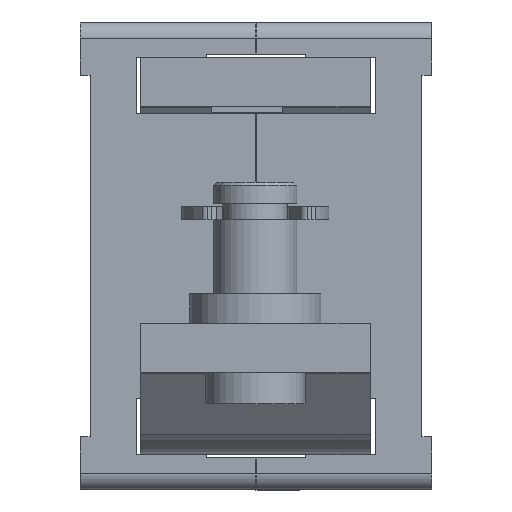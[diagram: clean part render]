
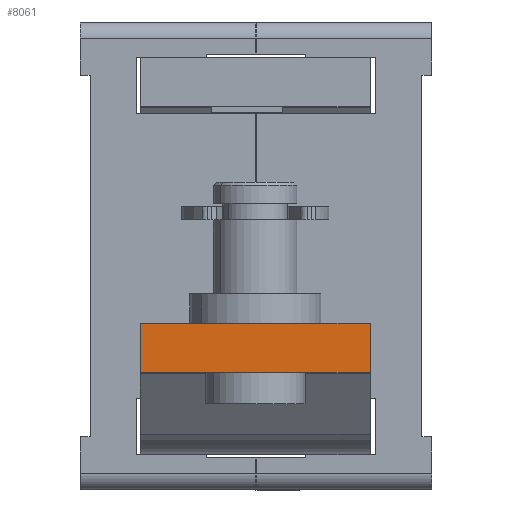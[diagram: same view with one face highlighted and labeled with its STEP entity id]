
A CAD part, front view. The second image highlights one B-rep face of the part: STEP entity #8061.
In plain terms, the highlighted planar face has unit normal (0, -1, 0) as drawn and (0, 1, 0) by its records, which use the part's own axes.
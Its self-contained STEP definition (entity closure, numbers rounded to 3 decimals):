
#3015 = DIRECTION ( 'NONE',  ( -1., 0., 0. ) ) ;
#3016 = VECTOR ( 'NONE', #3015, 1000. ) ;
#3017 = CARTESIAN_POINT ( 'NONE',  ( 7., 9.781, -5. ) ) ;
#3018 = LINE ( 'NONE', #3017, #3016 ) ;
#3111 = DIRECTION ( 'NONE',  ( -1., 0., 0. ) ) ;
#3112 = VECTOR ( 'NONE', #3111, 1000. ) ;
#3113 = CARTESIAN_POINT ( 'NONE',  ( 7., 9.781, -2. ) ) ;
#3119 = LINE ( 'NONE', #3113, #3112 ) ;
#3128 = CARTESIAN_POINT ( 'NONE',  ( -7., 9.781, -2. ) ) ;
#3186 = CARTESIAN_POINT ( 'NONE',  ( 7., 9.781, -5. ) ) ;
#3221 = DIRECTION ( 'NONE',  ( 0., 0., -1. ) ) ;
#3222 = VECTOR ( 'NONE', #3221, 1000. ) ;
#3223 = CARTESIAN_POINT ( 'NONE',  ( -7., 9.781, -2. ) ) ;
#3224 = LINE ( 'NONE', #3223, #3222 ) ;
#3226 = CARTESIAN_POINT ( 'NONE',  ( 7., 9.781, -2. ) ) ;
#3227 = AXIS2_PLACEMENT_3D ( 'NONE', #3226, #3253, #3252 ) ;
#3228 = PLANE ( 'NONE',  #3227 ) ;
#3229 = FACE_OUTER_BOUND ( 'NONE', #8039, .T. ) ;
#3230 = CARTESIAN_POINT ( 'NONE',  ( -7., 9.781, -5. ) ) ;
#3236 = DIRECTION ( 'NONE',  ( 0., 0., -1. ) ) ;
#3237 = VECTOR ( 'NONE', #3236, 1000. ) ;
#3238 = CARTESIAN_POINT ( 'NONE',  ( 7., 9.781, -2. ) ) ;
#3239 = LINE ( 'NONE', #3238, #3237 ) ;
#3240 = CARTESIAN_POINT ( 'NONE',  ( 7., 9.781, -2. ) ) ;
#3252 = DIRECTION ( 'NONE',  ( 0., 0., -1. ) ) ;
#3253 = DIRECTION ( 'NONE',  ( 0., -1., 0. ) ) ;
#8021 = ORIENTED_EDGE ( 'NONE', *, *, #8040, .T. ) ;
#8039 = EDGE_LOOP ( 'NONE', ( #8021, #8071, #8097, #8101 ) ) ;
#8040 = EDGE_CURVE ( 'NONE', #8056, #8057, #3018, .T. ) ;
#8050 = VERTEX_POINT ( 'NONE', #3128 ) ;
#8056 = VERTEX_POINT ( 'NONE', #3186 ) ;
#8057 = VERTEX_POINT ( 'NONE', #3230 ) ;
#8061 = ADVANCED_FACE ( 'NONE', ( #3229 ), #3228, .F. ) ;
#8071 = ORIENTED_EDGE ( 'NONE', *, *, #8072, .F. ) ;
#8072 = EDGE_CURVE ( 'NONE', #8050, #8057, #3224, .T. ) ;
#8097 = ORIENTED_EDGE ( 'NONE', *, *, #8098, .F. ) ;
#8098 = EDGE_CURVE ( 'NONE', #8113, #8050, #3119, .T. ) ;
#8101 = ORIENTED_EDGE ( 'NONE', *, *, #8114, .T. ) ;
#8113 = VERTEX_POINT ( 'NONE', #3240 ) ;
#8114 = EDGE_CURVE ( 'NONE', #8113, #8056, #3239, .T. ) ;
